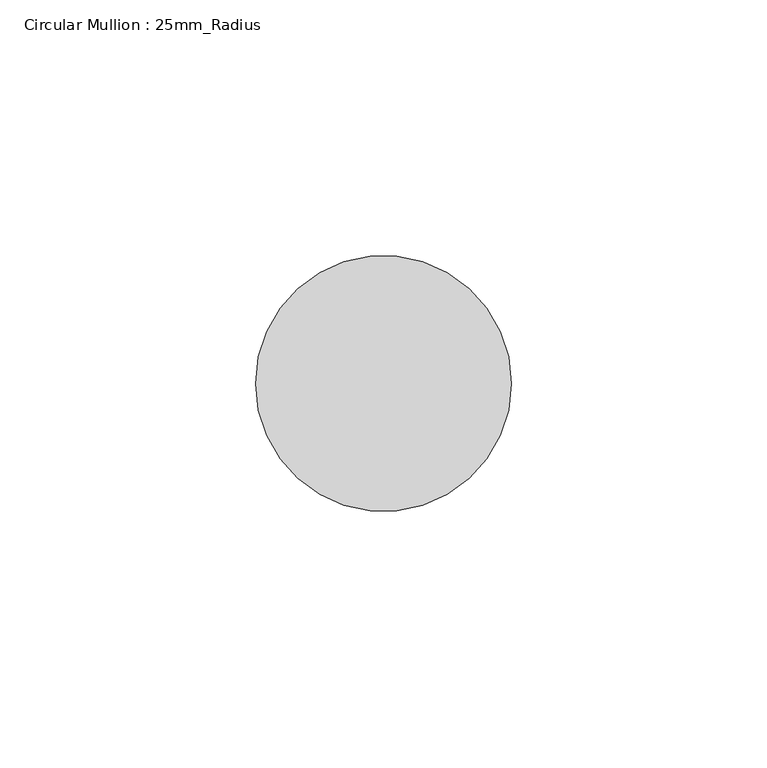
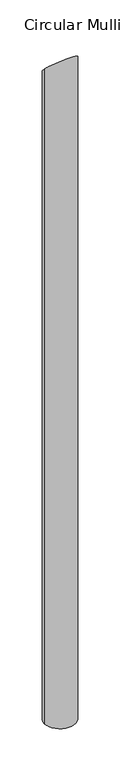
"""IFC4 building model written with IfcOpenShell, lengths in millimetres: member geometry, Circular Mullion : 25mm_Radius."""

from ifc_helpers import new_model, si_unit, frame, origin, place, context, project, spatial, circle_curve, ellipse_curve, source, transform, mapped, element, save
from ifc_brep_helpers import plane_surface, cylinder_surface, advanced_brep


def circular_mullion_25mm_radius_02246508(model_context):
    return source(origin(), model_context, "Body", "AdvancedBrep", [
        advanced_brep(
        [(0.0, 0.0, -1123.9983348), (-50.0, 0.0, -1123.9983348), (-50.0, 0.0, 0.0), (0.0, 0.0, 0.0)],
        [
            (0, 1, circle_curve(frame((-25.0, 0.0, -1123.9983348), z_axis=(0.0, 0.0, -1.0), x_axis=(1.0, 0.0, 0.0)), 25.0)),
            (1, 0, circle_curve(frame((-25.0, 0.0, -1123.9983348), z_axis=(0.0, 0.0, -1.0), x_axis=(1.0, 0.0, 0.0)), 25.0)),
            (2, 3, ellipse_curve(frame((-25.0, 0.0, 0.0), z_axis=(0.0, -0.7071067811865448, -0.7071067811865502), x_axis=(0.0, -0.7071067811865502, 0.7071067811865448)), 35.3553391, 25.0)),
            (3, 0),
            (1, 2),
            (3, 2, ellipse_curve(frame((-25.0, 0.0, 0.0), z_axis=(0.0, -0.7071067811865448, -0.7071067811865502), x_axis=(0.0, -0.7071067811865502, 0.7071067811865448)), 35.3553391, 25.0)),
        ],
        [
            plane_surface(frame((0.0, -50.0, -1123.9983348), z_axis=(0.0, 0.0, -1.0), x_axis=(-1.0, 0.0, 0.0))),
            cylinder_surface(frame((-25.0, 0.0, 0.0), z_axis=(0.0, 0.0, 1.0), x_axis=(1.0, 0.0, 0.0)), 25.0),
            plane_surface(frame((-304.8, 0.0, 0.0), z_axis=(0.0, 0.7071067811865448, 0.7071067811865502), x_axis=(0.0, 0.7071067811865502, -0.7071067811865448))),
        ],
        [
            (0, [[1, 2]]),
            (1, [[3, 4, -2, 5]]),
            (1, [[6, -5, -1, -4]]),
            (2, [[-3, -6]]),
        ],
    ),
    ])


if __name__ == "__main__":
    model = new_model("IFC4")
    model_context = context("Model", 3, world=origin())
    ifc_project = project(units=[si_unit("LENGTHUNIT", "METRE", prefix="MILLI")], contexts=[model_context])
    site = spatial("IfcSite", under=ifc_project)
    building = spatial("IfcBuilding", under=site)
    placement = place(None, origin())
    circular_mullion_25mm_radius_shape = circular_mullion_25mm_radius_02246508(model_context)
    element("IfcMember", 1, ObjectType="Circular Mullion : 25mm_Radius", at=placement, inside=building, context=model_context, shape_type="MappedRepresentation", body=[
        mapped(circular_mullion_25mm_radius_shape, transform((0.0, 0.0, 0.0), x_axis=(1.0, 0.0, 0.0), y_axis=(0.0, 1.0, 0.0), z_axis=(0.0, 0.0, 1.0))),
    ])
    save(model, "model.ifc")
